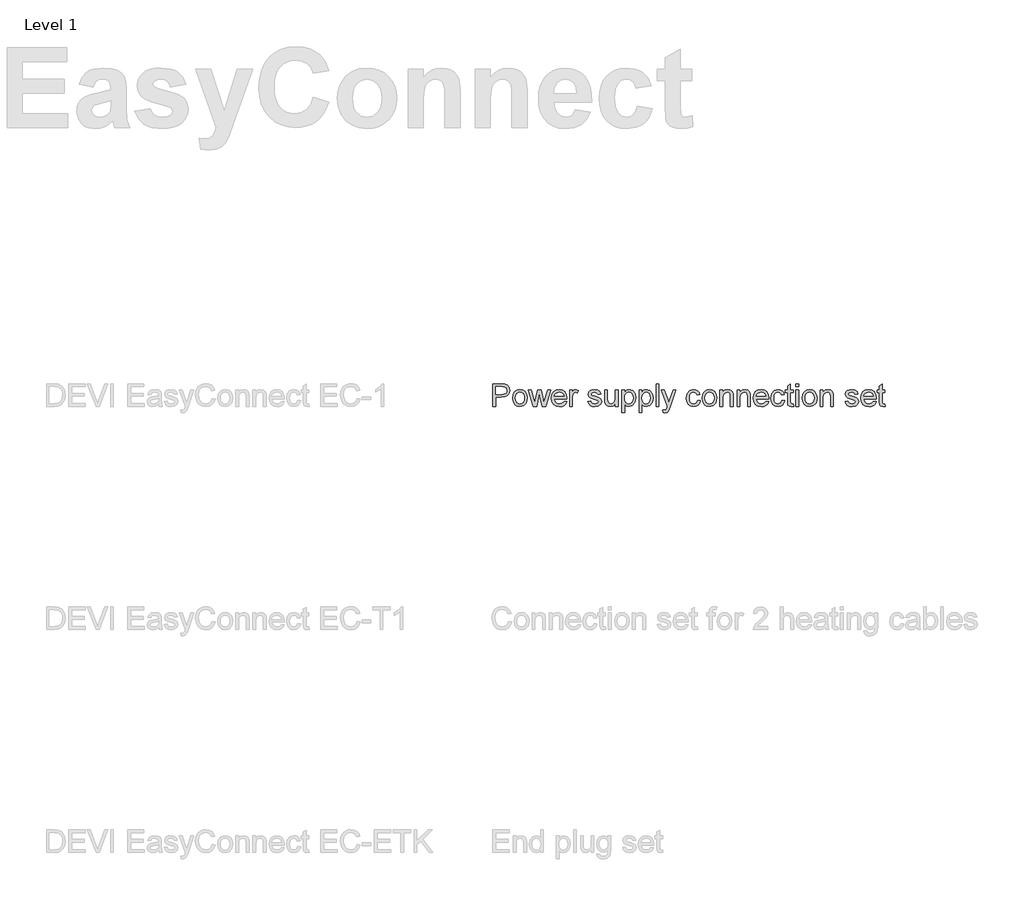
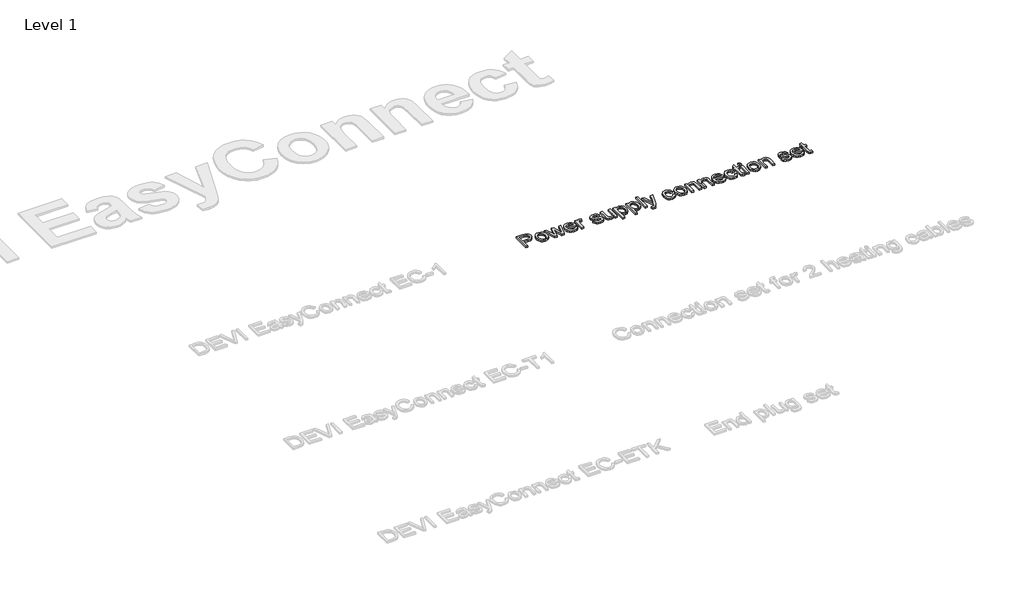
# One storey, part 11 of 11: 1 proxy.
"""IFC4 building model written with IfcOpenShell, lengths in millimetres."""

from ifc_helpers import new_model, si_unit, origin, origin_with_axes, place, context, project, spatial, polyline, outline, extrude, element, save

model = new_model("IFC4")

# Units and contexts
model_context = context("Model", 3, world=origin())
ifc_project = project(units=[si_unit("LENGTHUNIT", "METRE", prefix="MILLI")], contexts=[model_context])

# Site, building, storey
site = spatial("IfcSite", under=ifc_project)
building = spatial("IfcBuilding", under=site)
storey = spatial("IfcBuildingStorey", under=building, Name="Level 1", Elevation=0.0)

# Proxy
placement = place(None, origin())
element("IfcBuildingElementProxy", 1, Name="100mm Arial", ObjectType="100mm Arial", at=placement, inside=storey, context=model_context, shape_type="SweptSolid", body=[
    extrude(outline(polyline([(4544.9544754, 6516.7341496), (4544.9544754, 6617.1904598), (4582.1841333, 6617.1904598), (4597.1937187, 6616.2339666), (4609.3951382, 6611.5373398), (4617.3046011, 6601.8252551), (4620.296708, 6588.1277821), (4618.2764227, 6576.2881133), (4612.2155668, 6566.4227444), (4600.8817357, 6559.7640803), (4583.0425246, 6557.5445256), (4557.5115141, 6557.5445256), (4557.5115141, 6516.7341496), (4544.9544754, 6516.7341496)]), holes=[polyline([(4557.5115141, 6570.1015644), (4583.7782886, 6570.1015644), (4602.2704902, 6574.712352), (4606.3723745, 6580.2612388), (4607.7396692, 6587.6863237), (4604.5145704, 6598.0851215), (4596.0410218, 6603.7750297), (4583.483983, 6604.633421), (4557.5115141, 6604.633421), (4557.5115141, 6570.1015644)])]), origin_with_axes(), (0.0, 0.0, 1.0), 10.0),
    extrude(outline(polyline([(4632.8537467, 6553.620451), (4635.5699421, 6571.4075455), (4643.7185283, 6583.9094019), (4653.7862323, 6590.0346371), (4665.840499, 6592.0763822), (4679.0321342, 6589.5901131), (4689.5688877, 6582.1313056), (4696.4758721, 6570.2885711), (4698.7782003, 6554.6505206), (4694.7069729, 6532.3078207), (4682.8489099, 6519.6649428), (4665.840499, 6515.1645198), (4652.4894482, 6517.6415919), (4641.9649575, 6525.0728082), (4635.1315494, 6537.1638631), (4632.8537467, 6553.620451)]), holes=[polyline([(4645.4107855, 6553.6449765), (4646.8639194, 6542.2804885), (4651.223321, 6534.1840189), (4657.7838833, 6529.3371736), (4665.840499, 6527.7215585), (4673.8603265, 6529.3463707), (4680.408626, 6534.2208071), (4684.7680276, 6542.4245756), (4686.2211615, 6554.0373839), (4684.7588306, 6565.0707781), (4680.3718378, 6573.0568831), (4673.8143412, 6577.9037284), (4665.840499, 6579.5193435), (4657.7838833, 6577.9098597), (4651.223321, 6573.0814085), (4646.8639194, 6565.0033331), (4645.4107855, 6553.6449765)])]), origin_with_axes(), (0.0, 0.0, 1.0), 10.0),
    extrude(outline(polyline([(4725.1430766, 6516.7341496), (4702.7022749, 6590.5067524), (4715.749823, 6590.5067524), (4728.47854, 6547.4645589), (4732.2799873, 6532.0870915), (4735.3947215, 6546.9004732), (4745.5237391, 6590.5067524), (4760.4842736, 6590.5067524), (4770.5642403, 6547.0231005), (4773.335618, 6533.6076705), (4777.3087435, 6547.7588645), (4790.061986, 6590.5067524), (4803.158585, 6590.5067524), (4780.5461051, 6516.7341496), (4765.3648414, 6516.7341496), (4755.7263331, 6559.9970722), (4752.93043, 6573.4860787), (4740.4960185, 6516.7341496), (4725.1430766, 6516.7341496)])), origin_with_axes(), (0.0, 0.0, 1.0), 10.0),
    extrude(outline(polyline([(4863.4421813, 6538.7089675), (4875.7539654, 6537.1393376), (4871.3179217, 6527.86258), (4864.239259, 6520.9280044), (4854.6773928, 6516.6053909), (4842.7917387, 6515.1645198), (4828.0580647, 6517.6507889), (4816.7211679, 6525.1095964), (4809.4922867, 6537.0565642), (4807.0826597, 6553.0073143), (4809.5168122, 6569.4945591), (4816.8192698, 6581.8247373), (4828.0028824, 6589.513471), (4842.0805001, 6592.0763822), (4855.7197251, 6589.5196024), (4866.6182292, 6581.8492628), (4873.764337, 6569.54361), (4876.1463729, 6553.0808907), (4876.0727965, 6549.6963764), (4819.6396984, 6549.6963764), (4821.8132679, 6540.2969914), (4826.8624483, 6533.3869413), (4834.1495774, 6529.1379042), (4843.0369933, 6527.7215585), (4855.3487774, 6530.3457834), (4863.4421813, 6538.7089675)]), holes=[polyline([(4819.6396984, 6562.2534151), (4863.5893341, 6562.2534151), (4858.5616135, 6573.6332315), (4851.2407618, 6578.0478155), (4842.0314492, 6579.5193435), (4826.5681427, 6574.8227166), (4821.7029033, 6569.3320779), (4819.6396984, 6562.2534151)])]), origin_with_axes(), (0.0, 0.0, 1.0), 10.0),
    extrude(outline(polyline([(4888.7034116, 6516.7341496), (4888.7034116, 6590.5067524), (4899.6908206, 6590.5067524), (4899.6908206, 6579.5929199), (4907.4899189, 6589.6483611), (4915.3380681, 6592.0763822), (4927.9441578, 6588.2013585), (4923.7503031, 6576.9441695), (4914.9211352, 6579.5193435), (4907.8210127, 6577.0422714), (4903.2960641, 6570.1751408), (4901.2604504, 6555.5089119), (4901.2604504, 6516.7341496), (4888.7034116, 6516.7341496)])), origin_with_axes(), (0.0, 0.0, 1.0), 10.0),
    extrude(outline(polyline([(4970.3241636, 6538.7089675), (4982.8812024, 6540.2785973), (4988.6937379, 6530.9589201), (5002.0110662, 6527.7215585), (5014.8133596, 6530.68914), (5018.9826889, 6537.6543724), (5014.7888341, 6543.2952297), (5001.8639134, 6546.8759477), (4982.9547788, 6553.0195771), (4974.7019594, 6560.193276), (4971.8937935, 6570.3222936), (4974.1501364, 6579.678759), (4980.3060284, 6586.8279324), (4988.2890677, 6590.5435406), (4999.0925357, 6592.0763822), (5014.3719012, 6589.6115729), (5024.0839859, 6582.940646), (5028.400468, 6571.6711942), (5015.8434292, 6570.1015644), (5011.1222769, 6577.0300086), (5000.0735543, 6579.5193435), (4988.0560758, 6577.1403732), (4984.4508323, 6571.5976178), (4985.9468857, 6567.9433233), (4990.6312498, 6565.1719456), (5001.4469804, 6562.4986698), (5019.8778684, 6556.5880324), (5028.4372562, 6549.8925801), (5031.5397276, 6538.9787476), (5027.8976959, 6526.9612691), (5017.3885336, 6518.2424658), (5001.8393879, 6515.1645198), (4989.1781159, 6516.6483105), (4979.9381465, 6521.0996826), (4973.7699917, 6528.4695853), (4970.3241636, 6538.7089675)])), origin_with_axes(), (0.0, 0.0, 1.0), 10.0),
    extrude(outline(polyline([(5092.7552916, 6516.7341496), (5092.7552916, 6529.4138157), (5082.9205796, 6518.7268438), (5070.0937607, 6515.1645198), (5058.2847487, 6517.6661173), (5050.1422939, 6523.9446367), (5046.4021602, 6533.1907375), (5045.6663963, 6544.8648595), (5045.6663963, 6590.5067524), (5058.223435, 6590.5067524), (5058.223435, 6550.7754969), (5058.9837245, 6537.9732035), (5063.9501314, 6530.456148), (5073.3065968, 6527.7215585), (5083.7912337, 6530.5174617), (5090.7196779, 6538.132619), (5092.7552916, 6552.1243975), (5092.7552916, 6590.5067524), (5105.3123304, 6590.5067524), (5105.3123304, 6516.7341496), (5092.7552916, 6516.7341496)])), origin_with_axes(), (0.0, 0.0, 1.0), 10.0),
    extrude(outline(polyline([(5122.5782587, 6488.4808124), (5122.5782587, 6590.5067524), (5135.1352975, 6590.5067524), (5135.1352975, 6578.1949683), (5143.8173126, 6588.6060287), (5155.5404855, 6592.0763822), (5171.4575131, 6587.2203399), (5181.8563109, 6573.5351297), (5185.3634526, 6554.1845367), (5181.4025897, 6533.8406624), (5169.900146, 6519.9837739), (5154.0199066, 6515.1645198), (5143.0938113, 6518.3896186), (5135.1352975, 6526.5443361), (5135.1352975, 6488.4808124), (5122.5782587, 6488.4808124)]), holes=[polyline([(5135.1352975, 6553.0318398), (5136.4933952, 6541.7746507), (5140.5676883, 6533.9019761), (5146.5794932, 6529.2666629), (5153.7501264, 6527.7215585), (5161.0372556, 6529.3218452), (5167.2023447, 6534.1227052), (5171.4053965, 6542.2835542), (5172.8064138, 6553.9638075), (5171.439119, 6565.1596829), (5167.3372348, 6573.1427222), (5161.3346269, 6577.9251881), (5154.2651612, 6579.5193435), (5147.1681044, 6577.8240206), (5140.9355703, 6572.738052), (5136.5853657, 6564.4208532), (5135.1352975, 6553.0318398)])]), origin_with_axes(), (0.0, 0.0, 1.0), 10.0),
    extrude(outline(polyline([(5199.4901212, 6488.4808124), (5199.4901212, 6590.5067524), (5212.0471599, 6590.5067524), (5212.0471599, 6578.1949683), (5220.729175, 6588.6060287), (5232.4523479, 6592.0763822), (5248.3693756, 6587.2203399), (5258.7681733, 6573.5351297), (5262.275315, 6554.1845367), (5258.3144522, 6533.8406624), (5246.8120085, 6519.9837739), (5230.931769, 6515.1645198), (5220.0056738, 6518.3896186), (5212.0471599, 6526.5443361), (5212.0471599, 6488.4808124), (5199.4901212, 6488.4808124)]), holes=[polyline([(5212.0471599, 6553.0318398), (5213.4052576, 6541.7746507), (5217.4795507, 6533.9019761), (5223.4913557, 6529.2666629), (5230.6619889, 6527.7215585), (5237.9491181, 6529.3218452), (5244.1142072, 6534.1227052), (5248.317259, 6542.2835542), (5249.7182762, 6553.9638075), (5248.3509815, 6565.1596829), (5244.2490973, 6573.1427222), (5238.2464894, 6577.9251881), (5231.1770237, 6579.5193435), (5224.0799669, 6577.8240206), (5217.8474327, 6572.738052), (5213.4972281, 6564.4208532), (5212.0471599, 6553.0318398)])]), origin_with_axes(), (0.0, 0.0, 1.0), 10.0),
    extrude(outline(polyline([(5276.4019836, 6516.7341496), (5276.4019836, 6617.1904598), (5288.9590224, 6617.1904598), (5288.9590224, 6516.7341496), (5276.4019836, 6516.7341496)])), origin_with_axes(), (0.0, 0.0, 1.0), 10.0),
    extrude(outline(polyline([(5307.7945806, 6488.4808124), (5306.2249507, 6500.5718673), (5312.601572, 6499.4682213), (5318.5612603, 6500.8539102), (5322.2155548, 6504.7166711), (5325.6491201, 6513.9627719), (5326.6301387, 6517.0039297), (5299.9464313, 6590.5067524), (5313.1901832, 6590.5067524), (5327.3413772, 6549.5492236), (5332.270996, 6533.1662121), (5337.2006147, 6547.6362372), (5351.7442162, 6590.5067524), (5364.8898662, 6590.5067524), (5339.2117029, 6514.968316), (5332.5407761, 6498.5853045), (5325.2567126, 6489.7316112), (5315.4710515, 6486.9111825), (5307.7945806, 6488.4808124)])), origin_with_axes(), (0.0, 0.0, 1.0), 10.0),
    extrude(outline(polyline([(5461.6183055, 6543.417857), (5474.1753442, 6541.8482271), (5470.6743339, 6530.6799429), (5464.0953776, 6522.2401168), (5455.0577432, 6516.933419), (5444.1806989, 6515.1645198), (5430.8235168, 6517.6323948), (5420.3787338, 6525.03602), (5413.6372963, 6537.0504328), (5411.3901504, 6553.3506709), (5415.2283859, 6574.20958), (5426.9270333, 6587.6127473), (5444.0090206, 6592.0763822), (5454.6193505, 6590.5435406), (5463.1020962, 6585.9450156), (5469.1874775, 6578.5260621), (5472.6057144, 6568.5319345), (5460.0486756, 6566.9623047), (5454.2238774, 6576.367821), (5444.1071225, 6579.5193435), (5435.9922588, 6577.9681077), (5429.5512582, 6573.3144005), (5425.3482064, 6565.3068357), (5423.9471892, 6553.6940274), (5425.3175496, 6541.9248692), (5429.4286309, 6533.8897133), (5435.7531355, 6529.2635972), (5443.763766, 6527.7215585), (5455.5973035, 6531.5720567), (5461.6183055, 6543.417857)])), origin_with_axes(), (0.0, 0.0, 1.0), 10.0),
    extrude(outline(polyline([(5482.0234935, 6553.620451), (5484.7396889, 6571.4075455), (5492.8882751, 6583.9094019), (5502.955979, 6590.0346371), (5515.0102457, 6592.0763822), (5528.2018809, 6589.5901131), (5538.7386344, 6582.1313056), (5545.6456189, 6570.2885711), (5547.947947, 6554.6505206), (5543.8767196, 6532.3078207), (5532.0186566, 6519.6649428), (5515.0102457, 6515.1645198), (5501.659195, 6517.6415919), (5491.1347042, 6525.0728082), (5484.3012962, 6537.1638631), (5482.0234935, 6553.620451)]), holes=[polyline([(5494.5805322, 6553.6449765), (5496.0336661, 6542.2804885), (5500.3930678, 6534.1840189), (5506.95363, 6529.3371736), (5515.0102457, 6527.7215585), (5523.0300732, 6529.3463707), (5529.5783727, 6534.2208071), (5533.9377744, 6542.4245756), (5535.3909082, 6554.0373839), (5533.9285773, 6565.0707781), (5529.5415845, 6573.0568831), (5522.984088, 6577.9037284), (5515.0102457, 6579.5193435), (5506.95363, 6577.9098597), (5500.3930678, 6573.0814085), (5496.0336661, 6565.0033331), (5494.5805322, 6553.6449765)])]), origin_with_axes(), (0.0, 0.0, 1.0), 10.0),
    extrude(outline(polyline([(5562.0746156, 6516.7341496), (5562.0746156, 6590.5067524), (5574.6316544, 6590.5067524), (5574.6316544, 6580.2060565), (5584.2333745, 6589.1088008), (5597.3422362, 6592.0763822), (5609.2002992, 6589.6851493), (5617.2937031, 6583.4066299), (5621.0583622, 6574.1727918), (5621.7205498, 6562.0326859), (5621.7205498, 6516.7341496), (5609.163511, 6516.7341496), (5609.163511, 6560.3404288), (5607.7165085, 6571.450465), (5602.6029488, 6577.3243142), (5593.9822473, 6579.5193435), (5580.3583508, 6574.5897247), (5576.0633285, 6567.4466826), (5574.6316544, 6555.8767939), (5574.6316544, 6516.7341496), (5562.0746156, 6516.7341496)])), origin_with_axes(), (0.0, 0.0, 1.0), 10.0),
    extrude(outline(polyline([(5638.9864781, 6516.7341496), (5638.9864781, 6590.5067524), (5651.5435168, 6590.5067524), (5651.5435168, 6580.2060565), (5661.1452369, 6589.1088008), (5674.2540987, 6592.0763822), (5686.1121617, 6589.6851493), (5694.2055656, 6583.4066299), (5697.9702246, 6574.1727918), (5698.6324122, 6562.0326859), (5698.6324122, 6516.7341496), (5686.0753735, 6516.7341496), (5686.0753735, 6560.3404288), (5684.6283709, 6571.450465), (5679.5148112, 6577.3243142), (5670.8941098, 6579.5193435), (5657.2702132, 6574.5897247), (5652.9751909, 6567.4466826), (5651.5435168, 6555.8767939), (5651.5435168, 6516.7341496), (5638.9864781, 6516.7341496)])), origin_with_axes(), (0.0, 0.0, 1.0), 10.0),
    extrude(outline(polyline([(5767.5489727, 6538.7089675), (5779.8607568, 6537.1393376), (5775.424713, 6527.86258), (5768.3460503, 6520.9280044), (5758.7841841, 6516.6053909), (5746.89853, 6515.1645198), (5732.1648561, 6517.6507889), (5720.8279593, 6525.1095964), (5713.5990781, 6537.0565642), (5711.189451, 6553.0073143), (5713.6236035, 6569.4945591), (5720.9260611, 6581.8247373), (5732.1096738, 6589.513471), (5746.1872915, 6592.0763822), (5759.8265164, 6589.5196024), (5770.7250206, 6581.8492628), (5777.8711283, 6569.54361), (5780.2531642, 6553.0808907), (5780.1795878, 6549.6963764), (5723.7464898, 6549.6963764), (5725.9200592, 6540.2969914), (5730.9692396, 6533.3869413), (5738.2563688, 6529.1379042), (5747.1437847, 6527.7215585), (5759.4555688, 6530.3457834), (5767.5489727, 6538.7089675)]), holes=[polyline([(5723.7464898, 6562.2534151), (5767.6961255, 6562.2534151), (5762.6684049, 6573.6332315), (5755.3475532, 6578.0478155), (5746.1382405, 6579.5193435), (5730.674934, 6574.8227166), (5725.8096946, 6569.3320779), (5723.7464898, 6562.2534151)])]), origin_with_axes(), (0.0, 0.0, 1.0), 10.0),
    extrude(outline(polyline([(5839.8990984, 6543.417857), (5852.4561371, 6541.8482271), (5848.9551268, 6530.6799429), (5842.3761705, 6522.2401168), (5833.3385361, 6516.933419), (5822.4614918, 6515.1645198), (5809.1043097, 6517.6323948), (5798.6595267, 6525.03602), (5791.9180892, 6537.0504328), (5789.6709433, 6553.3506709), (5793.5091788, 6574.20958), (5805.2078262, 6587.6127473), (5822.2898135, 6592.0763822), (5832.9001434, 6590.5435406), (5841.3828891, 6585.9450156), (5847.4682704, 6578.5260621), (5850.8865073, 6568.5319345), (5838.3294685, 6566.9623047), (5832.5046703, 6576.367821), (5822.3879154, 6579.5193435), (5814.2730517, 6577.9681077), (5807.8320511, 6573.3144005), (5803.6289993, 6565.3068357), (5802.2279821, 6553.6940274), (5803.5983425, 6541.9248692), (5807.7094238, 6533.8897133), (5814.0339284, 6529.2635972), (5822.0445589, 6527.7215585), (5833.8780964, 6531.5720567), (5839.8990984, 6543.417857)])), origin_with_axes(), (0.0, 0.0, 1.0), 10.0),
    extrude(outline(polyline([(5890.1272535, 6527.2065237), (5891.6968833, 6516.3662676), (5882.3036297, 6515.1645198), (5871.7822046, 6517.2491844), (5866.5337548, 6522.7183634), (5865.0131759, 6536.9676593), (5865.0131759, 6577.9497136), (5855.5953968, 6577.9497136), (5855.5953968, 6590.5067524), (5865.0131759, 6590.5067524), (5865.0131759, 6608.4348683), (5877.5702147, 6615.8170336), (5877.5702147, 6590.5067524), (5890.1272535, 6590.5067524), (5890.1272535, 6577.9497136), (5877.5702147, 6577.9497136), (5877.5702147, 6537.3355413), (5878.2324023, 6530.8608182), (5880.3783806, 6528.5676871), (5884.6580745, 6527.7215585), (5890.1272535, 6527.2065237)])), origin_with_axes(), (0.0, 0.0, 1.0), 10.0),
    extrude(outline(polyline([(5902.6842922, 6604.633421), (5902.6842922, 6617.1904598), (5915.241331, 6617.1904598), (5915.241331, 6604.633421), (5902.6842922, 6604.633421)])), origin_with_axes(), (0.0, 0.0, 1.0), 10.0),
    extrude(outline(polyline([(5902.6842922, 6516.7341496), (5902.6842922, 6590.5067524), (5915.241331, 6590.5067524), (5915.241331, 6516.7341496), (5902.6842922, 6516.7341496)])), origin_with_axes(), (0.0, 0.0, 1.0), 10.0),
    extrude(outline(polyline([(5930.9376295, 6553.620451), (5933.6538248, 6571.4075455), (5941.802411, 6583.9094019), (5951.870115, 6590.0346371), (5963.9243817, 6592.0763822), (5977.1160169, 6589.5901131), (5987.6527704, 6582.1313056), (5994.5597548, 6570.2885711), (5996.862083, 6554.6505206), (5992.7908556, 6532.3078207), (5980.9327926, 6519.6649428), (5963.9243817, 6515.1645198), (5950.5733309, 6517.6415919), (5940.0488402, 6525.0728082), (5933.2154321, 6537.1638631), (5930.9376295, 6553.620451)]), holes=[polyline([(5943.4946682, 6553.6449765), (5944.9478021, 6542.2804885), (5949.3072037, 6534.1840189), (5955.867766, 6529.3371736), (5963.9243817, 6527.7215585), (5971.9442092, 6529.3463707), (5978.4925087, 6534.2208071), (5982.8519103, 6542.4245756), (5984.3050442, 6554.0373839), (5982.8427133, 6565.0707781), (5978.4557205, 6573.0568831), (5971.8982239, 6577.9037284), (5963.9243817, 6579.5193435), (5955.867766, 6577.9098597), (5949.3072037, 6573.0814085), (5944.9478021, 6565.0033331), (5943.4946682, 6553.6449765)])]), origin_with_axes(), (0.0, 0.0, 1.0), 10.0),
    extrude(outline(polyline([(6010.9887516, 6516.7341496), (6010.9887516, 6590.5067524), (6023.5457904, 6590.5067524), (6023.5457904, 6580.2060565), (6033.1475104, 6589.1088008), (6046.2563722, 6592.0763822), (6058.1144352, 6589.6851493), (6066.2078391, 6583.4066299), (6069.9724982, 6574.1727918), (6070.6346858, 6562.0326859), (6070.6346858, 6516.7341496), (6058.077647, 6516.7341496), (6058.077647, 6560.3404288), (6056.6306445, 6571.450465), (6051.5170847, 6577.3243142), (6042.8963833, 6579.5193435), (6029.2724868, 6574.5897247), (6024.9774645, 6567.4466826), (6023.5457904, 6555.8767939), (6023.5457904, 6516.7341496), (6010.9887516, 6516.7341496)])), origin_with_axes(), (0.0, 0.0, 1.0), 10.0),
    extrude(outline(polyline([(6122.4324707, 6538.7089675), (6134.9895094, 6540.2785973), (6140.802045, 6530.9589201), (6154.1193732, 6527.7215585), (6166.9216666, 6530.68914), (6171.0909959, 6537.6543724), (6166.8971412, 6543.2952297), (6153.9722204, 6546.8759477), (6135.0630858, 6553.0195771), (6126.8102664, 6560.193276), (6124.0021005, 6570.3222936), (6126.2584434, 6579.678759), (6132.4143355, 6586.8279324), (6140.3973748, 6590.5435406), (6151.2008427, 6592.0763822), (6166.4802082, 6589.6115729), (6176.1922929, 6582.940646), (6180.508775, 6571.6711942), (6167.9517362, 6570.1015644), (6163.2305839, 6577.0300086), (6152.1818614, 6579.5193435), (6140.1643828, 6577.1403732), (6136.5591393, 6571.5976178), (6138.0551927, 6567.9433233), (6142.7395568, 6565.1719456), (6153.5552875, 6562.4986698), (6171.9861754, 6556.5880324), (6180.5455632, 6549.8925801), (6183.6480347, 6538.9787476), (6180.0060029, 6526.9612691), (6169.4968406, 6518.2424658), (6153.9476949, 6515.1645198), (6141.2864229, 6516.6483105), (6132.0464535, 6521.0996826), (6125.8782987, 6528.4695853), (6122.4324707, 6538.7089675)])), origin_with_axes(), (0.0, 0.0, 1.0), 10.0),
    extrude(outline(polyline([(6249.4253354, 6538.7089675), (6261.7371195, 6537.1393376), (6257.3010758, 6527.86258), (6250.2224131, 6520.9280044), (6240.6605469, 6516.6053909), (6228.7748927, 6515.1645198), (6214.0412188, 6517.6507889), (6202.704322, 6525.1095964), (6195.4754408, 6537.0565642), (6193.0658137, 6553.0073143), (6195.4999663, 6569.4945591), (6202.8024239, 6581.8247373), (6213.9860365, 6589.513471), (6228.0636542, 6592.0763822), (6241.7028792, 6589.5196024), (6252.6013833, 6581.8492628), (6259.7474911, 6569.54361), (6262.129527, 6553.0808907), (6262.0559506, 6549.6963764), (6205.6228525, 6549.6963764), (6207.796422, 6540.2969914), (6212.8456024, 6533.3869413), (6220.1327315, 6529.1379042), (6229.0201474, 6527.7215585), (6241.3319315, 6530.3457834), (6249.4253354, 6538.7089675)]), holes=[polyline([(6205.6228525, 6562.2534151), (6249.5724882, 6562.2534151), (6244.5447676, 6573.6332315), (6237.2239159, 6578.0478155), (6228.0146033, 6579.5193435), (6212.5512968, 6574.8227166), (6207.6860574, 6569.3320779), (6205.6228525, 6562.2534151)])]), origin_with_axes(), (0.0, 0.0, 1.0), 10.0),
    extrude(outline(polyline([(6301.3702731, 6527.2065237), (6302.939903, 6516.3662676), (6293.5466494, 6515.1645198), (6283.0252243, 6517.2491844), (6277.7767745, 6522.7183634), (6276.2561956, 6536.9676593), (6276.2561956, 6577.9497136), (6266.8384165, 6577.9497136), (6266.8384165, 6590.5067524), (6276.2561956, 6590.5067524), (6276.2561956, 6608.4348683), (6288.8132344, 6615.8170336), (6288.8132344, 6590.5067524), (6301.3702731, 6590.5067524), (6301.3702731, 6577.9497136), (6288.8132344, 6577.9497136), (6288.8132344, 6537.3355413), (6289.475422, 6530.8608182), (6291.6214003, 6528.5676871), (6295.9010941, 6527.7215585), (6301.3702731, 6527.2065237)])), origin_with_axes(), (0.0, 0.0, 1.0), 10.0),
])

save(model, "model.ifc")
